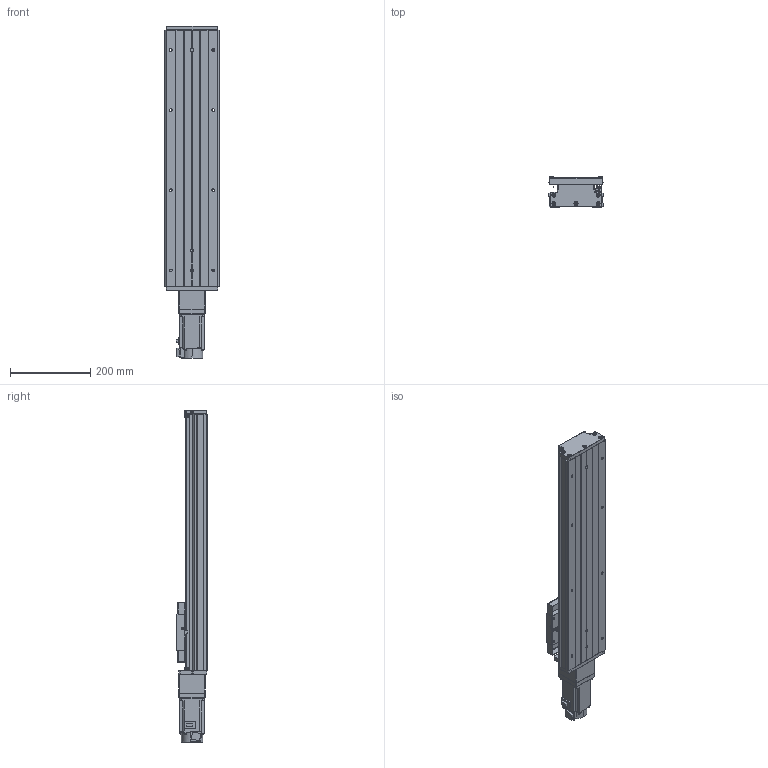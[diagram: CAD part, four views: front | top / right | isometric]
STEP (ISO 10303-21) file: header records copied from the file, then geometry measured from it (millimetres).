
FILE_DESCRIPTION (( 'STEP AP203' ), '1' );
FILE_NAME ('CTH130-450-BC-M40-C4.step', '2023-06-30T02:33:11', ( '微软用户' ), ( '微软中国' ), 'SwSTEP 2.0', 'SolidWorks 2020', '' );
FILE_SCHEMA (( 'CONFIG_CONTROL_DESIGN' ));
Length unit declared in the file: millimetre
Products named in the file (21): GBT 70.3-M3℅8; GB1155-6X6; CTH130-031; HG-KN43J-S100; GBT70.1 M5℅16; GBT 70.2-M3¡Á5_M3¡Á6; CTH130-450-BC-M40-C4; GTH14-001_450; CTHA60-017; す晦芛蹟隊 M3℅5; CTH130-002_GTH14-002; EE_SX911P_R; CTHA86-006-1_M40; GB T308.1-2013-6.35; CTHA60-016; CTHA86-013; GTH14-004; GBT 70.1-M3℅5; CTHA86-027-1; GTH14-005; GBT77-2000 M3×3
Assembly tree (59 placements, depth 2):
  CTH130-450-BC-M40-C4
    GTH14-001_450
    CTH130-002_GTH14-002
    GB T308.1-2013-6.35  x2
    GTH14-004
    GTH14-005
    GB1155-6X6  x2
    GBT70.1 M5℅16  x10
    CTHA60-017  x3
    EE_SX911P_R  x3
    CTHA60-016  x2
    GBT 70.1-M3℅5  x6
    GBT77-2000 M3×3  x6
    CTH130-031
    GBT 70.2-M3¡Á5_M3¡Á6  x8
    す晦芛蹟隊 M3℅5  x6
    CTHA86-006-1_M40
    CTHA86-013
    CTHA86-027-1
    GBT 70.3-M3℅8  x2
    HG-KN43J-S100
Bounding box: 135 x 76 x 828.7 mm (x, y, z)
Volume: 4006108.8 mm3; surface area: 656762.1 mm2
Topology: 62 solids, 62 shells, 2370 faces, 5657 edges, 3503 vertices
Faces by surface type: plane 1301, cylinder 618, cone 287, torus 120, sphere 24, bspline 20
Entity records: 43372 total; most frequent: CARTESIAN_POINT 9755, DIRECTION 6271, ORIENTED_EDGE 6214, EDGE_CURVE 3107, AXIS2_PLACEMENT_3D 2115, VECTOR 2041, LINE 2041, VERTEX_POINT 1963
